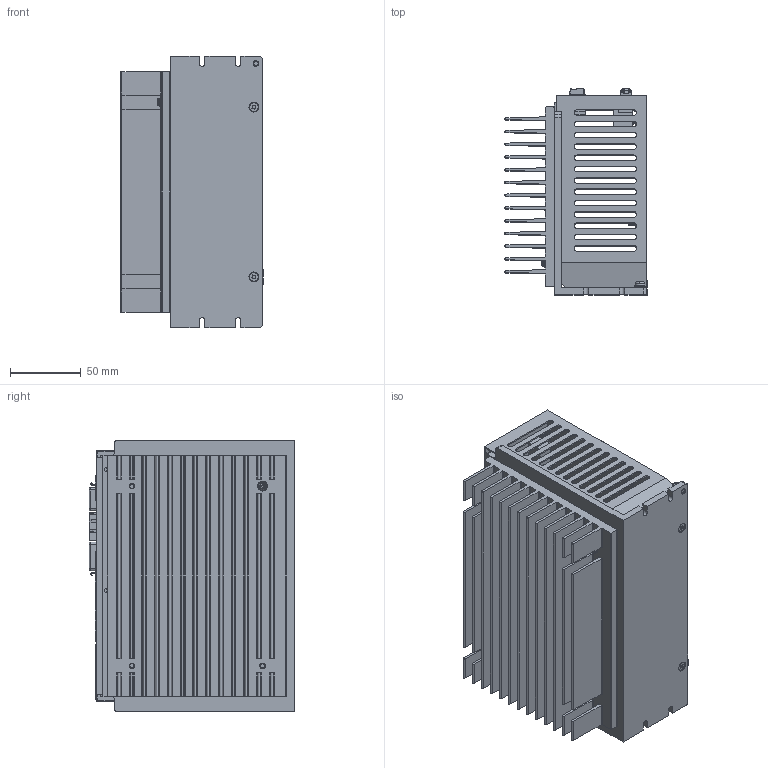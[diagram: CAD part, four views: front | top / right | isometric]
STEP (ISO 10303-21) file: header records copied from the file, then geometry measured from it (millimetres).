
FILE_DESCRIPTION (( 'STEP AP203' ), '1' );
FILE_NAME ('D1-xx-xx-x-1-xx.STEP', '2013-06-24T08:56:49', ( '' ), ( '' ), 'SwSTEP 2.0', 'SolidWorks 2010', '' );
FILE_SCHEMA (( 'CONFIG_CONTROL_DESIGN' ));
Products named in the file (1): D1-xx-xx-x-1-xx
Bounding box: 100.5 x 145.41 x 191.6 mm (x, y, z)
Surface area: 339127.5 mm2 (no closed solid volume)
Topology: 0 solids, 136 shells, 1482 faces, 6861 edges, 5372 vertices
Faces by surface type: plane 960, cylinder 373, bspline 90, cone 37, torus 18, sphere 4
Entity records: 85677 total; most frequent: CARTESIAN_POINT 33213, ORIENTED_EDGE 9832, DIRECTION 9594, EDGE_CURVE 6861, VERTEX_POINT 5372, LINE 4486, VECTOR 4486, AXIS2_PLACEMENT_3D 2554
